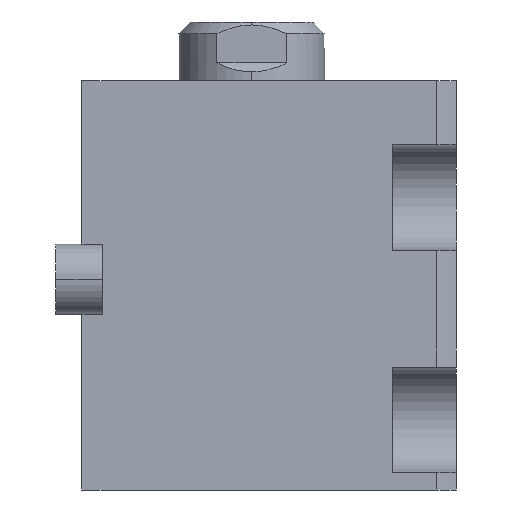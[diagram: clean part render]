
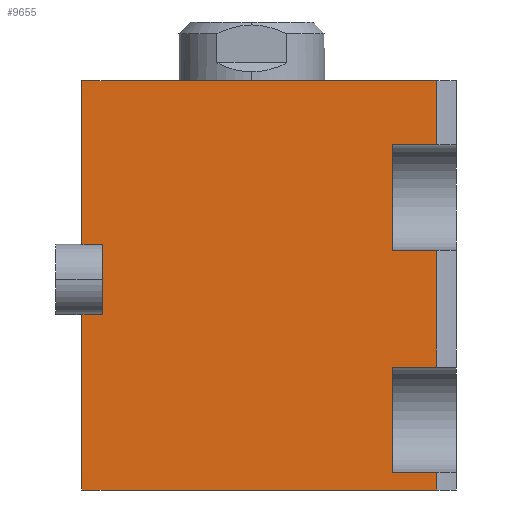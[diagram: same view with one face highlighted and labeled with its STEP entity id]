
A CAD part, left-side view. The second image highlights one B-rep face of the part: STEP entity #9655.
In plain terms, the highlighted planar face has unit normal (-1, 0, 0).
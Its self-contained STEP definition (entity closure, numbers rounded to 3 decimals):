
#10 = VERTEX_POINT ( 'NONE', #8044 ) ;
#116 = LINE ( 'NONE', #2672, #1990 ) ;
#254 = CARTESIAN_POINT ( 'NONE',  ( -40., 32., 41. ) ) ;
#306 = VERTEX_POINT ( 'NONE', #960 ) ;
#340 = CARTESIAN_POINT ( 'NONE',  ( -40., 28.5, 70. ) ) ;
#436 = VERTEX_POINT ( 'NONE', #6515 ) ;
#513 = VERTEX_POINT ( 'NONE', #9400 ) ;
#552 = VERTEX_POINT ( 'NONE', #10207 ) ;
#553 = ORIENTED_EDGE ( 'NONE', *, *, #8922, .T. ) ;
#555 = CARTESIAN_POINT ( 'NONE',  ( -40., 32., 70. ) ) ;
#571 = ORIENTED_EDGE ( 'NONE', *, *, #4123, .F. ) ;
#869 = LINE ( 'NONE', #1652, #9097 ) ;
#879 = DIRECTION ( 'NONE',  ( 0., 0., -1. ) ) ;
#887 = VECTOR ( 'NONE', #9593, 1000. ) ;
#934 = VECTOR ( 'NONE', #6931, 1000. ) ;
#960 = CARTESIAN_POINT ( 'NONE',  ( -40., -28.639, 21. ) ) ;
#1076 = DIRECTION ( 'NONE',  ( 0., 0., -1. ) ) ;
#1301 = EDGE_CURVE ( 'NONE', #4733, #1648, #8562, .T. ) ;
#1485 = EDGE_CURVE ( 'NONE', #4733, #10, #8107, .T. ) ;
#1648 = VERTEX_POINT ( 'NONE', #4493 ) ;
#1652 = CARTESIAN_POINT ( 'NONE',  ( -40., 32., 21. ) ) ;
#1740 = CARTESIAN_POINT ( 'NONE',  ( -40., 32., 70. ) ) ;
#1854 = CARTESIAN_POINT ( 'NONE',  ( -40., -28.639, 59. ) ) ;
#1881 = VECTOR ( 'NONE', #2365, 1000. ) ;
#1897 = EDGE_CURVE ( 'NONE', #4079, #436, #10334, .T. ) ;
#1922 = VERTEX_POINT ( 'NONE', #3260 ) ;
#1971 = LINE ( 'NONE', #254, #4108 ) ;
#1990 = VECTOR ( 'NONE', #1076, 1000. ) ;
#2213 = VECTOR ( 'NONE', #2588, 1000. ) ;
#2348 = CARTESIAN_POINT ( 'NONE',  ( -40., 32., 70. ) ) ;
#2365 = DIRECTION ( 'NONE',  ( 0., 0., -1. ) ) ;
#2490 = LINE ( 'NONE', #6435, #4117 ) ;
#2509 = EDGE_CURVE ( 'NONE', #1648, #513, #9966, .T. ) ;
#2514 = FACE_OUTER_BOUND ( 'NONE', #6424, .T. ) ;
#2553 = DIRECTION ( 'NONE',  ( 0., 0., -1. ) ) ;
#2576 = VERTEX_POINT ( 'NONE', #3098 ) ;
#2588 = DIRECTION ( 'NONE',  ( 0., 1., 0. ) ) ;
#2646 = DIRECTION ( 'NONE',  ( 0., 1., 0. ) ) ;
#2672 = CARTESIAN_POINT ( 'NONE',  ( -40., -28.639, -250. ) ) ;
#2829 = ORIENTED_EDGE ( 'NONE', *, *, #10108, .T. ) ;
#3047 = ORIENTED_EDGE ( 'NONE', *, *, #8700, .F. ) ;
#3098 = CARTESIAN_POINT ( 'NONE',  ( -40., -28.639, 3. ) ) ;
#3172 = LINE ( 'NONE', #8742, #9278 ) ;
#3173 = DIRECTION ( 'NONE',  ( 1., 0., 0. ) ) ;
#3185 = CARTESIAN_POINT ( 'NONE',  ( -40., -21., 70. ) ) ;
#3260 = CARTESIAN_POINT ( 'NONE',  ( -40., -28.639, 70. ) ) ;
#3315 = EDGE_CURVE ( 'NONE', #4079, #7563, #5475, .T. ) ;
#3570 = DIRECTION ( 'NONE',  ( 0., 0., 1. ) ) ;
#3678 = DIRECTION ( 'NONE',  ( 0., 0., -1. ) ) ;
#3782 = CARTESIAN_POINT ( 'NONE',  ( -40., 28.5, 30. ) ) ;
#3800 = VERTEX_POINT ( 'NONE', #7122 ) ;
#3871 = VECTOR ( 'NONE', #3570, 1000. ) ;
#3907 = EDGE_CURVE ( 'NONE', #513, #10150, #7488, .T. ) ;
#3929 = DIRECTION ( 'NONE',  ( 0., 0., -1. ) ) ;
#3981 = DIRECTION ( 'NONE',  ( 0., -1., 0. ) ) ;
#4079 = VERTEX_POINT ( 'NONE', #7405 ) ;
#4108 = VECTOR ( 'NONE', #2646, 1000. ) ;
#4117 = VECTOR ( 'NONE', #879, 1000. ) ;
#4123 = EDGE_CURVE ( 'NONE', #1922, #7563, #116, .T. ) ;
#4188 = ORIENTED_EDGE ( 'NONE', *, *, #1897, .F. ) ;
#4493 = CARTESIAN_POINT ( 'NONE',  ( -40., 32., 30. ) ) ;
#4533 = ORIENTED_EDGE ( 'NONE', *, *, #6330, .T. ) ;
#4710 = ORIENTED_EDGE ( 'NONE', *, *, #1301, .T. ) ;
#4733 = VERTEX_POINT ( 'NONE', #3782 ) ;
#4780 = EDGE_CURVE ( 'NONE', #2576, #10150, #10328, .T. ) ;
#4806 = ORIENTED_EDGE ( 'NONE', *, *, #7309, .T. ) ;
#5212 = VERTEX_POINT ( 'NONE', #8124 ) ;
#5244 = VECTOR ( 'NONE', #6773, 1000. ) ;
#5372 = VECTOR ( 'NONE', #3929, 1000. ) ;
#5453 = EDGE_CURVE ( 'NONE', #552, #306, #2490, .T. ) ;
#5475 = LINE ( 'NONE', #8366, #5244 ) ;
#5726 = CARTESIAN_POINT ( 'NONE',  ( -40., 32., 70. ) ) ;
#6185 = EDGE_CURVE ( 'NONE', #3800, #306, #869, .T. ) ;
#6216 = VERTEX_POINT ( 'NONE', #5726 ) ;
#6330 = EDGE_CURVE ( 'NONE', #552, #436, #1971, .T. ) ;
#6416 = ORIENTED_EDGE ( 'NONE', *, *, #2509, .T. ) ;
#6424 = EDGE_LOOP ( 'NONE', ( #571, #9560, #2829, #4806, #7028, #4710, #6416, #8311, #8556, #553, #3047, #8433, #6809, #4533, #4188, #6538 ) ) ;
#6435 = CARTESIAN_POINT ( 'NONE',  ( -40., -28.639, -250. ) ) ;
#6494 = DIRECTION ( 'NONE',  ( 0., -1., 0. ) ) ;
#6515 = CARTESIAN_POINT ( 'NONE',  ( -40., -21., 41. ) ) ;
#6538 = ORIENTED_EDGE ( 'NONE', *, *, #3315, .T. ) ;
#6585 = EDGE_CURVE ( 'NONE', #6216, #1922, #9404, .T. ) ;
#6645 = CARTESIAN_POINT ( 'NONE',  ( -40., 32., 3. ) ) ;
#6683 = DIRECTION ( 'NONE',  ( 0., 1., 0. ) ) ;
#6773 = DIRECTION ( 'NONE',  ( 0., -1., 0. ) ) ;
#6809 = ORIENTED_EDGE ( 'NONE', *, *, #5453, .F. ) ;
#6815 = AXIS2_PLACEMENT_3D ( 'NONE', #2348, #3173, #8723 ) ;
#6931 = DIRECTION ( 'NONE',  ( 0., -1., 0. ) ) ;
#7028 = ORIENTED_EDGE ( 'NONE', *, *, #1485, .F. ) ;
#7122 = CARTESIAN_POINT ( 'NONE',  ( -40., -21., 21. ) ) ;
#7135 = PLANE ( 'NONE',  #6815 ) ;
#7309 = EDGE_CURVE ( 'NONE', #9962, #10, #3172, .T. ) ;
#7405 = CARTESIAN_POINT ( 'NONE',  ( -40., -21., 59. ) ) ;
#7488 = LINE ( 'NONE', #8786, #887 ) ;
#7563 = VERTEX_POINT ( 'NONE', #1854 ) ;
#7661 = CARTESIAN_POINT ( 'NONE',  ( -40., 32., 70. ) ) ;
#7770 = CARTESIAN_POINT ( 'NONE',  ( -40., -28.639, -250. ) ) ;
#8044 = CARTESIAN_POINT ( 'NONE',  ( -40., 28.5, 42. ) ) ;
#8107 = LINE ( 'NONE', #340, #3871 ) ;
#8120 = VECTOR ( 'NONE', #6683, 1000. ) ;
#8124 = CARTESIAN_POINT ( 'NONE',  ( -40., -21., 3. ) ) ;
#8220 = VECTOR ( 'NONE', #8537, 1000. ) ;
#8311 = ORIENTED_EDGE ( 'NONE', *, *, #3907, .T. ) ;
#8366 = CARTESIAN_POINT ( 'NONE',  ( -40., 32., 59. ) ) ;
#8433 = ORIENTED_EDGE ( 'NONE', *, *, #6185, .T. ) ;
#8484 = CARTESIAN_POINT ( 'NONE',  ( -40., -28.639, 0. ) ) ;
#8537 = DIRECTION ( 'NONE',  ( 0., 0., -1. ) ) ;
#8556 = ORIENTED_EDGE ( 'NONE', *, *, #4780, .F. ) ;
#8562 = LINE ( 'NONE', #9730, #2213 ) ;
#8700 = EDGE_CURVE ( 'NONE', #3800, #5212, #9627, .T. ) ;
#8723 = DIRECTION ( 'NONE',  ( 0., 1., 0. ) ) ;
#8742 = CARTESIAN_POINT ( 'NONE',  ( -40., 32., 42. ) ) ;
#8786 = CARTESIAN_POINT ( 'NONE',  ( -40., 32., 0. ) ) ;
#8922 = EDGE_CURVE ( 'NONE', #2576, #5212, #10225, .T. ) ;
#9097 = VECTOR ( 'NONE', #6494, 1000. ) ;
#9278 = VECTOR ( 'NONE', #3981, 1000. ) ;
#9400 = CARTESIAN_POINT ( 'NONE',  ( -40., 32., 0. ) ) ;
#9404 = LINE ( 'NONE', #555, #934 ) ;
#9477 = VECTOR ( 'NONE', #2553, 1000. ) ;
#9485 = VECTOR ( 'NONE', #3678, 1000. ) ;
#9509 = CARTESIAN_POINT ( 'NONE',  ( -40., -21., 70. ) ) ;
#9560 = ORIENTED_EDGE ( 'NONE', *, *, #6585, .F. ) ;
#9593 = DIRECTION ( 'NONE',  ( 0., -1., 0. ) ) ;
#9627 = LINE ( 'NONE', #9509, #5372 ) ;
#9655 = ADVANCED_FACE ( 'NONE', ( #2514 ), #7135, .F. ) ;
#9730 = CARTESIAN_POINT ( 'NONE',  ( -40., 32., 30. ) ) ;
#9737 = LINE ( 'NONE', #7661, #9485 ) ;
#9871 = CARTESIAN_POINT ( 'NONE',  ( -40., 32., 42. ) ) ;
#9962 = VERTEX_POINT ( 'NONE', #9871 ) ;
#9966 = LINE ( 'NONE', #1740, #9477 ) ;
#10108 = EDGE_CURVE ( 'NONE', #6216, #9962, #9737, .T. ) ;
#10150 = VERTEX_POINT ( 'NONE', #8484 ) ;
#10207 = CARTESIAN_POINT ( 'NONE',  ( -40., -28.639, 41. ) ) ;
#10225 = LINE ( 'NONE', #6645, #8120 ) ;
#10328 = LINE ( 'NONE', #7770, #8220 ) ;
#10334 = LINE ( 'NONE', #3185, #1881 ) ;
